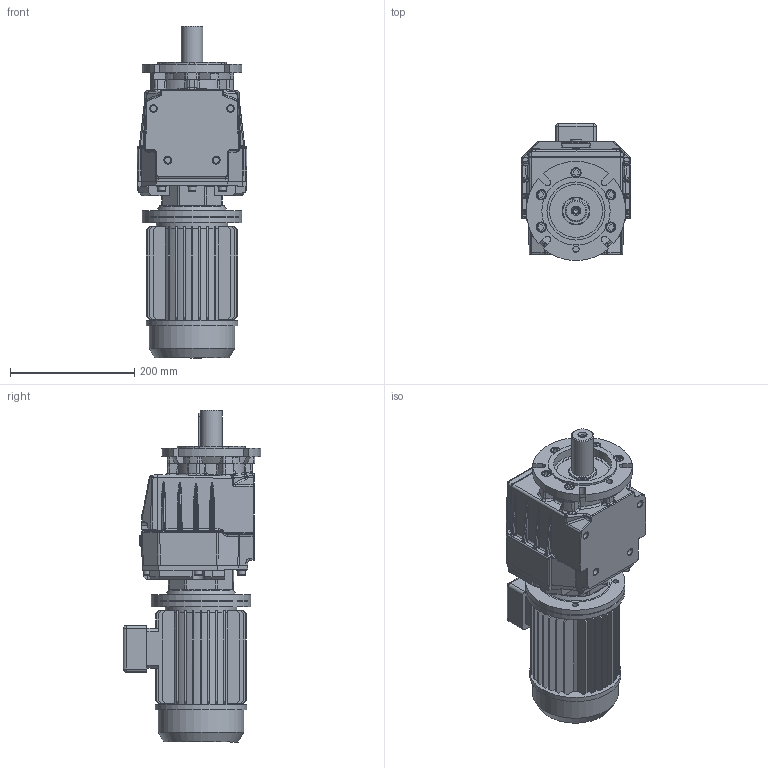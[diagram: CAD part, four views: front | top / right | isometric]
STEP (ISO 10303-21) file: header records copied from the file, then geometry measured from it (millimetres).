
FILE_DESCRIPTION( ( 'Unknown' ), '1' );
FILE_NAME( 'E:/services/configuratordownloads/customers/HYDROMEC/COASSIALI/download/AAB5D5357A5C7C1F8FA161B12C3D6/STEP/AAB5D5357A5C7C1F8FA161B12C3D6.3d.stp', 'Unknown', ( 'Unknown' ), ( 'Unknown' ), 'PSStep 10.1', 'Unknown', ' ' );
FILE_SCHEMA( ( 'AUTOMOTIVE_DESIGN { 1 0 10303 214 1 1 1 1 }' ) );
Length unit declared in the file: millimetre
Products named in the file (1): C618800
Bounding box: 176.85 x 221.1 x 534.4 mm (x, y, z)
Volume: 8491019.8 mm3; surface area: 588778.9 mm2
Topology: 1 solids, 30 shells, 1607 faces, 3983 edges, 2509 vertices
Faces by surface type: plane 855, cylinder 371, bspline 196, cone 105, torus 42, sphere 26, revolution 8, extrusion 4
Full cylindrical faces by diameter (mm): 4.917 x6, 6 x6, 6.5 x1, 7.175 x6, 8 x1, 8.376 x6, 8.5 x8, 9 x4, 9.5 x8, 10 x7, 10.106 x4, 10.5 x6, 11.3 x1, 11.445 x2, 12.75 x8, 13.5 x1, 15.8 x5, 16.5 x5, 18 x1, 19 x1, 20 x1, 22 x1, 35 x1, 45 x3, 68 x1, 75 x1, 85 x1, 93.5 x1, 106 x1, 110 x1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
Entity records: 70305 total; most frequent: CARTESIAN_POINT 22096, ORIENTED_EDGE 7356, DIRECTION 6749, EDGE_CURVE 3678, VERTEX_POINT 2412, AXIS2_PLACEMENT_3D 2332, VECTOR 2077, LINE 2073
